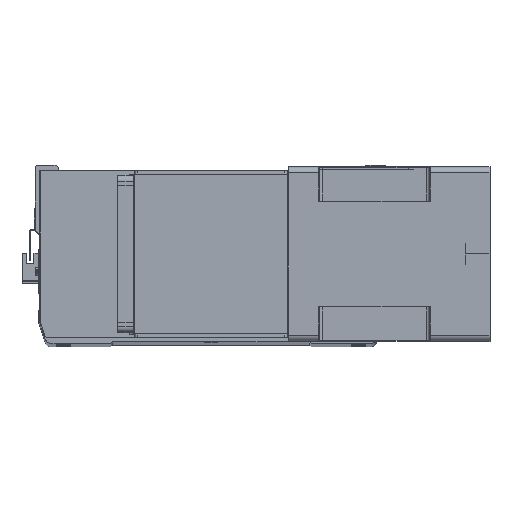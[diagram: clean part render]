
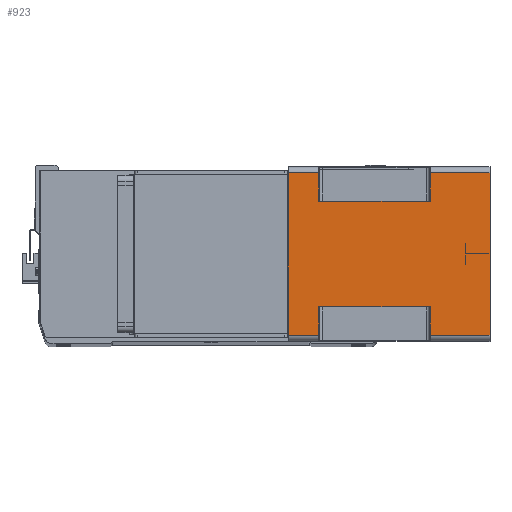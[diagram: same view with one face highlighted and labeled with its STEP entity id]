
A CAD part, top view. The second image highlights one B-rep face of the part: STEP entity #923.
In plain terms, the highlighted planar face has unit normal (0, 0, 1) as drawn and (1, 0, 0) by its records, which use the part's own axes.
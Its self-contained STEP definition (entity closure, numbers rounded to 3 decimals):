
#316 = LINE ( 'NONE', #30524, #19406 ) ;
#746 = ORIENTED_EDGE ( 'NONE', *, *, #23693, .T. ) ;
#923 = ADVANCED_FACE ( 'NONE', ( #20997 ), #14163, .T. ) ;
#1112 = VECTOR ( 'NONE', #13315, 1000. ) ;
#1305 = DIRECTION ( 'NONE',  ( 0., 1., 0. ) ) ;
#1443 = EDGE_CURVE ( 'NONE', #12997, #21205, #8712, .T. ) ;
#1595 = DIRECTION ( 'NONE',  ( 0., 0., 1. ) ) ;
#2153 = ORIENTED_EDGE ( 'NONE', *, *, #7546, .T. ) ;
#3038 = VERTEX_POINT ( 'NONE', #7926 ) ;
#3189 = VERTEX_POINT ( 'NONE', #22636 ) ;
#3305 = ORIENTED_EDGE ( 'NONE', *, *, #20676, .T. ) ;
#3912 = CARTESIAN_POINT ( 'NONE',  ( 71., -43., -24.5 ) ) ;
#3923 = DIRECTION ( 'NONE',  ( 0., 0., 1. ) ) ;
#4437 = VERTEX_POINT ( 'NONE', #12092 ) ;
#4454 = CARTESIAN_POINT ( 'NONE',  ( 71., 66., -24.5 ) ) ;
#5110 = CARTESIAN_POINT ( 'NONE',  ( 71., 66., -115.5 ) ) ;
#6496 = DIRECTION ( 'NONE',  ( 0., -1., 0. ) ) ;
#6746 = CARTESIAN_POINT ( 'NONE',  ( 71., -66., 0. ) ) ;
#6899 = CARTESIAN_POINT ( 'NONE',  ( 71., 43., -24.5 ) ) ;
#6935 = EDGE_CURVE ( 'NONE', #4437, #3038, #8663, .T. ) ;
#7118 = ORIENTED_EDGE ( 'NONE', *, *, #16902, .T. ) ;
#7382 = CARTESIAN_POINT ( 'NONE',  ( 71., 66., -164. ) ) ;
#7546 = EDGE_CURVE ( 'NONE', #27791, #3189, #316, .T. ) ;
#7588 = ORIENTED_EDGE ( 'NONE', *, *, #29161, .F. ) ;
#7926 = CARTESIAN_POINT ( 'NONE',  ( 71., -43., -24.5 ) ) ;
#7960 = LINE ( 'NONE', #10809, #12812 ) ;
#7982 = VECTOR ( 'NONE', #12760, 1000. ) ;
#8663 = LINE ( 'NONE', #3912, #1112 ) ;
#8712 = LINE ( 'NONE', #19491, #10220 ) ;
#8986 = EDGE_CURVE ( 'NONE', #30845, #13290, #23382, .T. ) ;
#9177 = VECTOR ( 'NONE', #24948, 1000. ) ;
#9738 = VECTOR ( 'NONE', #1595, 1000. ) ;
#10102 = EDGE_CURVE ( 'NONE', #31058, #25397, #11067, .T. ) ;
#10220 = VECTOR ( 'NONE', #14595, 1000. ) ;
#10260 = CARTESIAN_POINT ( 'NONE',  ( 71., 43., -164. ) ) ;
#10327 = VECTOR ( 'NONE', #1305, 1000. ) ;
#10397 = ORIENTED_EDGE ( 'NONE', *, *, #6935, .T. ) ;
#10809 = CARTESIAN_POINT ( 'NONE',  ( 71., -66., -115.5 ) ) ;
#10817 = CARTESIAN_POINT ( 'NONE',  ( 71., 66., 0. ) ) ;
#10952 = LINE ( 'NONE', #23191, #25150 ) ;
#11067 = LINE ( 'NONE', #23103, #17389 ) ;
#11881 = ORIENTED_EDGE ( 'NONE', *, *, #15082, .F. ) ;
#12092 = CARTESIAN_POINT ( 'NONE',  ( 71., -66., -24.5 ) ) ;
#12364 = DIRECTION ( 'NONE',  ( 1., 0., 0. ) ) ;
#12582 = CARTESIAN_POINT ( 'NONE',  ( 71., -66., -115.5 ) ) ;
#12675 = VECTOR ( 'NONE', #3923, 1000. ) ;
#12760 = DIRECTION ( 'NONE',  ( 0., 0., -1. ) ) ;
#12812 = VECTOR ( 'NONE', #25008, 1000. ) ;
#12997 = VERTEX_POINT ( 'NONE', #6746 ) ;
#13290 = VERTEX_POINT ( 'NONE', #12582 ) ;
#13315 = DIRECTION ( 'NONE',  ( 0., 1., 0. ) ) ;
#13346 = EDGE_CURVE ( 'NONE', #13427, #13290, #7960, .T. ) ;
#13427 = VERTEX_POINT ( 'NONE', #27788 ) ;
#14163 = PLANE ( 'NONE',  #29479 ) ;
#14372 = ORIENTED_EDGE ( 'NONE', *, *, #10102, .T. ) ;
#14595 = DIRECTION ( 'NONE',  ( 0., 1., 0. ) ) ;
#15017 = CARTESIAN_POINT ( 'NONE',  ( 71., -66., -164. ) ) ;
#15066 = LINE ( 'NONE', #10260, #7982 ) ;
#15082 = EDGE_CURVE ( 'NONE', #13427, #3038, #15938, .T. ) ;
#15653 = CARTESIAN_POINT ( 'NONE',  ( 71., -66., -164. ) ) ;
#15938 = LINE ( 'NONE', #28710, #18579 ) ;
#16591 = DIRECTION ( 'NONE',  ( 0., 0., 1. ) ) ;
#16902 = EDGE_CURVE ( 'NONE', #23899, #27791, #10952, .T. ) ;
#17257 = CARTESIAN_POINT ( 'NONE',  ( 71., -66., -164. ) ) ;
#17389 = VECTOR ( 'NONE', #20602, 1000. ) ;
#18579 = VECTOR ( 'NONE', #16591, 1000. ) ;
#19406 = VECTOR ( 'NONE', #6496, 1000. ) ;
#19491 = CARTESIAN_POINT ( 'NONE',  ( 71., -66., 0. ) ) ;
#20029 = LINE ( 'NONE', #15653, #10327 ) ;
#20490 = EDGE_CURVE ( 'NONE', #31058, #3189, #15066, .T. ) ;
#20532 = ORIENTED_EDGE ( 'NONE', *, *, #8986, .F. ) ;
#20602 = DIRECTION ( 'NONE',  ( 0., 1., 0. ) ) ;
#20676 = EDGE_CURVE ( 'NONE', #30845, #23899, #20029, .T. ) ;
#20997 = FACE_OUTER_BOUND ( 'NONE', #26157, .T. ) ;
#21205 = VERTEX_POINT ( 'NONE', #10817 ) ;
#21541 = DIRECTION ( 'NONE',  ( 0., 1., 0. ) ) ;
#22375 = ORIENTED_EDGE ( 'NONE', *, *, #20490, .F. ) ;
#22636 = CARTESIAN_POINT ( 'NONE',  ( 71., 43., -115.5 ) ) ;
#23103 = CARTESIAN_POINT ( 'NONE',  ( 71., -66., -24.5 ) ) ;
#23191 = CARTESIAN_POINT ( 'NONE',  ( 71., 66., -164. ) ) ;
#23382 = LINE ( 'NONE', #15017, #9177 ) ;
#23693 = EDGE_CURVE ( 'NONE', #25397, #21205, #29124, .T. ) ;
#23899 = VERTEX_POINT ( 'NONE', #7382 ) ;
#24948 = DIRECTION ( 'NONE',  ( 0., 0., 1. ) ) ;
#25008 = DIRECTION ( 'NONE',  ( 0., -1., 0. ) ) ;
#25150 = VECTOR ( 'NONE', #27757, 1000. ) ;
#25397 = VERTEX_POINT ( 'NONE', #4454 ) ;
#25661 = CARTESIAN_POINT ( 'NONE',  ( 71., -66., -164. ) ) ;
#26157 = EDGE_LOOP ( 'NONE', ( #11881, #27688, #20532, #3305, #7118, #2153, #22375, #14372, #746, #29073, #7588, #10397 ) ) ;
#27688 = ORIENTED_EDGE ( 'NONE', *, *, #13346, .T. ) ;
#27757 = DIRECTION ( 'NONE',  ( 0., 0., 1. ) ) ;
#27788 = CARTESIAN_POINT ( 'NONE',  ( 71., -43., -115.5 ) ) ;
#27791 = VERTEX_POINT ( 'NONE', #5110 ) ;
#28710 = CARTESIAN_POINT ( 'NONE',  ( 71., -43., -164. ) ) ;
#29073 = ORIENTED_EDGE ( 'NONE', *, *, #1443, .F. ) ;
#29124 = LINE ( 'NONE', #30374, #12675 ) ;
#29152 = LINE ( 'NONE', #25661, #9738 ) ;
#29161 = EDGE_CURVE ( 'NONE', #4437, #12997, #29152, .T. ) ;
#29479 = AXIS2_PLACEMENT_3D ( 'NONE', #30882, #12364, #21541 ) ;
#30374 = CARTESIAN_POINT ( 'NONE',  ( 71., 66., -164. ) ) ;
#30524 = CARTESIAN_POINT ( 'NONE',  ( 71., 43., -115.5 ) ) ;
#30845 = VERTEX_POINT ( 'NONE', #17257 ) ;
#30882 = CARTESIAN_POINT ( 'NONE',  ( 71., -66., -164. ) ) ;
#31058 = VERTEX_POINT ( 'NONE', #6899 ) ;
